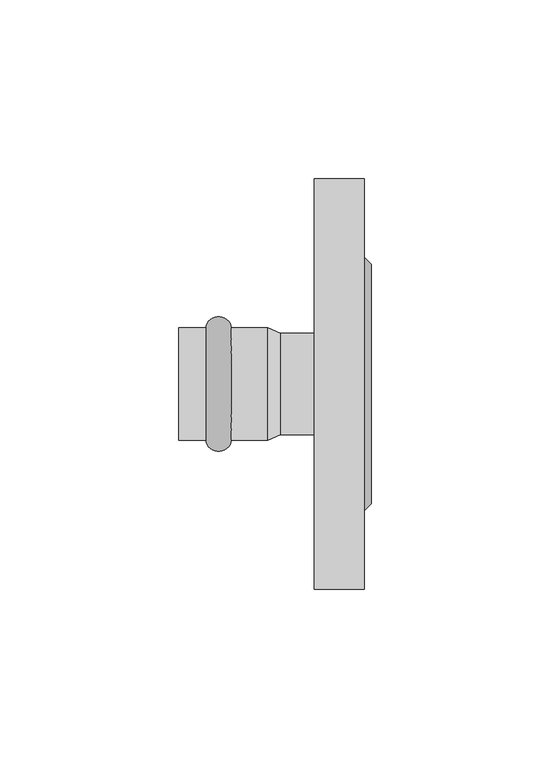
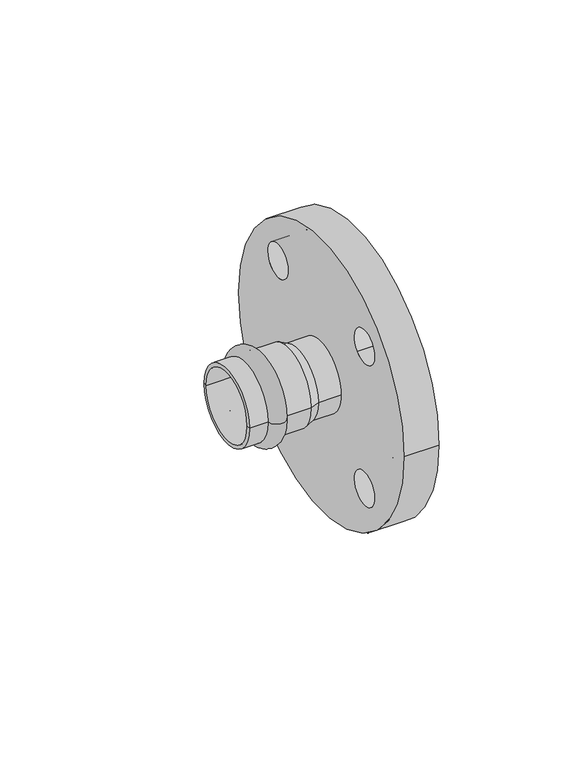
"""IFC4 building model written with IfcOpenShell, lengths in millimetres: pipe fitting geometry, РЕХАУ_Пресс Фланец : 28 x DN25."""

from ifc_helpers import new_model, si_unit, point, frame, frame_2d, origin, origin_2d, place, context, project, spatial, polyline, circle_curve, ellipse_curve, trimmed, segment, composite_curve, outline, extrude, source, transform, mapped, element, save
from ifc_brep_helpers import plane_surface, cylinder_surface, revolved_surface, advanced_brep


def pipe_fitting_d9377fef(model_context):
    return source(origin(), model_context, "Body", "SolidModel", [
        advanced_brep(
        [(-17.25, 15.75, 0.0), (-17.25, -15.75, 0.0), (-10.25, -15.75, 0.0), (-10.25, 15.75, 0.0)],
        [
            (0, 1, circle_curve(frame((-17.25, 0.0, 0.0), z_axis=(-1.0, 0.0, 0.0), x_axis=(0.0, -1.0, 0.0)), 15.75)),
            (1, 2),
            (2, 3, circle_curve(frame((-10.25, 0.0, 0.0), z_axis=(1.0, 0.0, 0.0), x_axis=(0.0, -1.0, 0.0)), 15.75)),
            (3, 0),
            (1, 0, circle_curve(frame((-17.25, 0.0, 0.0), z_axis=(-1.0, 0.0, 0.0), x_axis=(0.0, -1.0, 0.0)), 15.75)),
            (3, 2, circle_curve(frame((-10.25, 0.0, 0.0), z_axis=(1.0, 0.0, 0.0), x_axis=(0.0, -1.0, 0.0)), 15.75)),
            (2, 1, ellipse_curve(frame((-13.75, -15.75, 0.0), z_axis=(0.0, 0.0, -1.0), x_axis=(-1.0, 0.0, 0.0)), 3.5, 3.1)),
            (0, 3, ellipse_curve(frame((-13.75, 15.75, 0.0), z_axis=(0.0, 0.0, -1.0), x_axis=(-1.0, 0.0, 0.0)), 3.5, 3.1)),
        ],
        [
            revolved_surface(polyline([(-10.25, -15.75, 0.0), (-17.25, -15.75, 0.0)]), (2.75, 0.0, 0.0), (1.0, 0.0, 0.0)),
            revolved_surface(trimmed(ellipse_curve(frame((-13.75, -15.75, 0.0), z_axis=(0.0, 0.0, 1.0), x_axis=(-1.0, 0.0, 0.0)), 3.5, 3.1), [point((-17.25, -15.75, 0.0))], [point((-10.25, -15.75, 0.0))], True, "CARTESIAN"), (2.75, 0.0, 0.0), (1.0, 0.0, 0.0)),
        ],
        [
            (0, [[1, 2, 3, 4]]),
            (0, [[5, -4, 6, -2]]),
            (1, [[-3, 7, -1, 8]]),
            (1, [[-6, -8, -5, -7]]),
        ],
    ),
        advanced_brep(
        [(3.5337785, 14.25, 0.0), (3.5337785, -14.25, 0.0), (0.0, -15.75, 0.0), (0.0, 15.75, 0.0), (-24.95, 14.25, 0.0), (-24.95, -14.25, 0.0), (-24.95, 15.75, 0.0), (-24.95, -15.75, 0.0)],
        [
            (0, 1, circle_curve(frame((3.5337785, 0.0, 0.0), z_axis=(-1.0, 0.0, 0.0), x_axis=(0.0, -1.0, 0.0)), 14.25)),
            (1, 2),
            (2, 3, circle_curve(frame((0.0, 0.0, 0.0), z_axis=(1.0, 0.0, 0.0), x_axis=(0.0, -1.0, 0.0)), 15.75)),
            (3, 0),
            (1, 0, circle_curve(frame((3.5337785, 0.0, 0.0), z_axis=(-1.0, 0.0, 0.0), x_axis=(0.0, -1.0, 0.0)), 14.25)),
            (3, 2, circle_curve(frame((0.0, 0.0, 0.0), z_axis=(1.0, 0.0, 0.0), x_axis=(0.0, -1.0, 0.0)), 15.75)),
            (4, 5, circle_curve(frame((-24.95, 0.0, 0.0), z_axis=(-1.0, 0.0, 0.0), x_axis=(0.0, -1.0, 0.0)), 14.25)),
            (5, 1),
            (0, 4),
            (5, 4, circle_curve(frame((-24.95, 0.0, 0.0), z_axis=(-1.0, 0.0, 0.0), x_axis=(0.0, -1.0, 0.0)), 14.25)),
            (6, 7, circle_curve(frame((-24.95, 0.0, 0.0), z_axis=(-1.0, 0.0, 0.0), x_axis=(0.0, -1.0, 0.0)), 15.75)),
            (7, 5),
            (4, 6),
            (7, 6, circle_curve(frame((-24.95, 0.0, 0.0), z_axis=(-1.0, 0.0, 0.0), x_axis=(0.0, -1.0, 0.0)), 15.75)),
            (2, 7),
            (6, 3),
        ],
        [
            revolved_surface(polyline([(0.0, -15.75, 0.0), (3.5337785, -14.25, 0.0)]), (2.75, 0.0, 0.0), (1.0, 0.0, 0.0)),
            revolved_surface(polyline([(3.5337785, -14.25, 0.0), (-24.95, -14.25, 0.0)]), (2.75, 0.0, 0.0), (1.0, 0.0, 0.0)),
            plane_surface(frame((-24.95, 0.0, 0.0), z_axis=(-1.0, 0.0, 0.0), x_axis=(0.0, -1.0, 0.0))),
            cylinder_surface(frame((2.75, 0.0, 0.0), z_axis=(1.0, 0.0, 0.0), x_axis=(0.0, -1.0, 0.0)), 15.75),
        ],
        [
            (0, [[1, 2, 3, 4]]),
            (0, [[5, -4, 6, -2]]),
            (1, [[7, 8, -1, 9]]),
            (1, [[10, -9, -5, -8]]),
            (2, [[11, 12, -7, 13]]),
            (2, [[14, -13, -10, -12]]),
            (3, [[-3, 15, -11, 16]]),
            (3, [[-6, -16, -14, -15]]),
        ],
    ),
        advanced_brep(
        [(29.0, -33.5, 0.0), (29.0, 33.5, 0.0), (27.0, -35.5, 0.0), (27.0, 35.5, 0.0)],
        [
            (0, 1, circle_curve(frame((29.0, 0.0, 0.0), z_axis=(1.0, 0.0, 0.0), x_axis=(0.0, -1.0, 0.0)), 33.5)),
            (1, 0, circle_curve(frame((29.0, 0.0, 0.0), z_axis=(1.0, 0.0, 0.0), x_axis=(0.0, 1.0, 0.0)), 33.5)),
            (2, 3, circle_curve(frame((27.0, 0.0, 0.0), z_axis=(-1.0, 0.0, 0.0), x_axis=(0.0, 1.0, 0.0)), 35.5)),
            (3, 2, circle_curve(frame((27.0, 0.0, 0.0), z_axis=(-1.0, 0.0, 0.0), x_axis=(0.0, -1.0, 0.0)), 35.5)),
            (3, 1),
            (0, 2),
        ],
        [
            plane_surface(frame((29.0, 0.0, 0.0), z_axis=(1.0, 0.0, 0.0), x_axis=(0.0, 0.0, -1.0))),
            plane_surface(frame((27.0, 0.0, 0.0), z_axis=(-1.0, 0.0, 0.0), x_axis=(0.0, 0.0, -1.0))),
            revolved_surface(polyline([(29.0, -33.5, 0.0), (27.0, -35.5, 0.0)]), (62.5, 0.0, 0.0), (-1.0, 0.0, 0.0)),
            revolved_surface(polyline([(29.0, 33.5, 0.0), (27.0, 35.5, 0.0)]), (62.5, 0.0, 0.0), (-1.0, 0.0, 0.0)),
        ],
        [
            (0, [[1, 2]]),
            (1, [[3, 4]]),
            (2, [[-4, 5, -1, 6]]),
            (3, [[-3, -6, -2, -5]]),
        ],
    ),
        extrude(outline(composite_curve([segment(trimmed(circle_curve(origin_2d(), 57.5), [point((57.5, 0.0))], [point((-57.5, 0.0))], False, "CARTESIAN"), True, "CONTINUOUS"), segment(trimmed(circle_curve(origin_2d(), 57.5), [point((-57.5, 0.0))], [point((57.5, 0.0))], False, "CARTESIAN"), True, "CONTINUOUS")], self_intersect=False), holes=[composite_curve([segment(trimmed(circle_curve(frame_2d((30.0520382, 30.0520382)), 7.0), [point((25.1022907, 25.1022907))], [point((35.0017857, 35.0017857))], True, "CARTESIAN"), True, "CONTINUOUS"), segment(trimmed(circle_curve(frame_2d((30.0520382, 30.0520382)), 7.0), [point((35.0017857, 35.0017857))], [point((25.1022907, 25.1022907))], True, "CARTESIAN"), True, "CONTINUOUS")], self_intersect=False), composite_curve([segment(trimmed(circle_curve(frame_2d((30.0520382, -30.0520382)), 7.0), [point((25.1022907, -25.1022907))], [point((35.0017857, -35.0017857))], True, "CARTESIAN"), True, "CONTINUOUS"), segment(trimmed(circle_curve(frame_2d((30.0520382, -30.0520382)), 7.0), [point((35.0017857, -35.0017857))], [point((25.1022907, -25.1022907))], True, "CARTESIAN"), True, "CONTINUOUS")], self_intersect=False), composite_curve([segment(trimmed(circle_curve(frame_2d((-30.0520382, -30.0520382)), 7.0), [point((-25.1022907, -25.1022907))], [point((-35.0017857, -35.0017857))], True, "CARTESIAN"), True, "CONTINUOUS"), segment(trimmed(circle_curve(frame_2d((-30.0520382, -30.0520382)), 7.0), [point((-35.0017857, -35.0017857))], [point((-25.1022907, -25.1022907))], True, "CARTESIAN"), True, "CONTINUOUS")], self_intersect=False), composite_curve([segment(trimmed(circle_curve(frame_2d((-30.0520382, 30.0520382)), 7.0), [point((-25.1022907, 25.1022907))], [point((-35.0017857, 35.0017857))], True, "CARTESIAN"), True, "CONTINUOUS"), segment(trimmed(circle_curve(frame_2d((-30.0520382, 30.0520382)), 7.0), [point((-35.0017857, 35.0017857))], [point((-25.1022907, 25.1022907))], True, "CARTESIAN"), True, "CONTINUOUS")], self_intersect=False)]), frame((13.0, 0.0, 0.0), z_axis=(1.0, 0.0, 0.0), x_axis=(0.0, 1.0, 0.0)), (0.0, 0.0, 1.0), 14.0),
        extrude(outline(composite_curve([segment(trimmed(circle_curve(origin_2d(), 14.25), [point((-14.25, 0.0))], [point((14.25, 0.0))], False, "CARTESIAN"), True, "CONTINUOUS"), segment(trimmed(circle_curve(origin_2d(), 14.25), [point((14.25, 0.0))], [point((-14.25, 0.0))], False, "CARTESIAN"), True, "CONTINUOUS")], self_intersect=False)), frame((0.0, 0.0, 0.0), z_axis=(1.0, 0.0, 0.0), x_axis=(0.0, 1.0, 0.0)), (0.0, 0.0, 1.0), 13.0),
    ])


if __name__ == "__main__":
    model = new_model("IFC4")
    model_context = context("Model", 3, world=origin())
    ifc_project = project(units=[si_unit("LENGTHUNIT", "METRE", prefix="MILLI")], contexts=[model_context])
    site = spatial("IfcSite", under=ifc_project)
    building = spatial("IfcBuilding", under=site)
    placement = place(None, origin())
    pipe_fitting_shape = pipe_fitting_d9377fef(model_context)
    element("IfcPipeFitting", 1, ObjectType="РЕХАУ_Пресс Фланец : 28 x DN25", at=placement, inside=building, context=model_context, shape_type="MappedRepresentation", body=[
        mapped(pipe_fitting_shape, transform((0.0, 0.0, 0.0), x_axis=(1.0, 0.0, 0.0), y_axis=(0.0, 1.0, 0.0), z_axis=(0.0, 0.0, 1.0))),
    ])
    save(model, "model.ifc")
